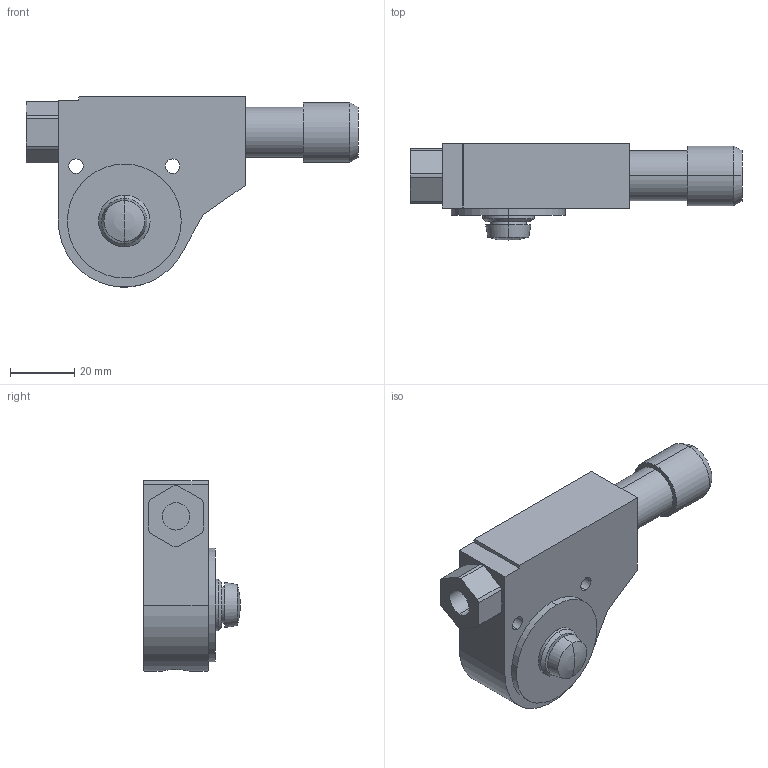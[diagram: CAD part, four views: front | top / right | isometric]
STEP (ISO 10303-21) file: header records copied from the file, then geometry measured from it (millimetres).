
FILE_DESCRIPTION( (''), '2;1');
FILE_NAME ('WS50.20056.CVF-1-####（参考図）-3D_24389.stp','2020-06-19T19:01:01',(''),(''),'spGate 14.4.8','','');
FILE_SCHEMA (('AUTOMOTIVE_DESIGN'));
Length unit declared in the file: millimetre
Bounding box: 103 x 30 x 59 mm (x, y, z)
Volume: 68296.9 mm3; surface area: 13809.8 mm2
Topology: 1 solids, 1 shells, 56 faces, 132 edges, 85 vertices
Faces by surface type: plane 23, cylinder 23, bspline 8, sphere 2
Entity records: 2783 total; most frequent: CARTESIAN_POINT 437, ORIENTED_EDGE 260, DIRECTION 254, COLOUR_RGB 187, PRESENTATION_STYLE_ASSIGNMENT 187, STYLED_ITEM 187, EDGE_CURVE 130, DRAUGHTING_PRE_DEFINED_CURVE_FONT 130
